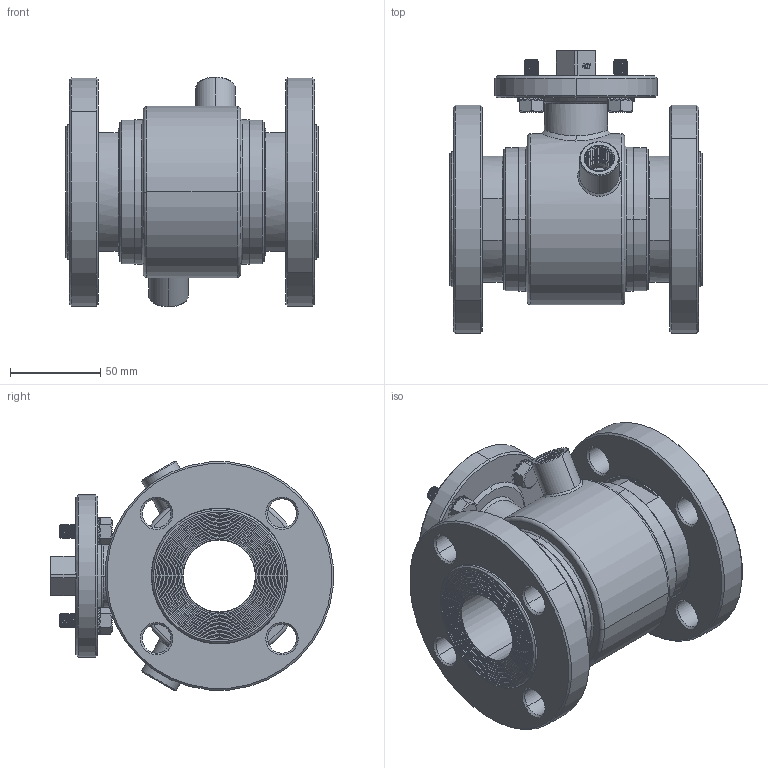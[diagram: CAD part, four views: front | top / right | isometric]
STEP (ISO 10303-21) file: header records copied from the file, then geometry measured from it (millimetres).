
FILE_DESCRIPTION((''),'2;1');
FILE_NAME('133055C6341F_SW0001','2026-07-28T10:50:59',('tecnico2'),('CDM Tecnoconsulting'),'CREO PARAMETRIC BY PTC INC, 2024063','CREO PARAMETRIC BY PTC INC, 2024063','');
FILE_SCHEMA(('CONFIG_CONTROL_DESIGN','SHAPE_APPEARANCE_LAYERS_GROUPS'));
Products named in the file (1): 133055C6341F_SW0001
Bounding box: 140 x 156.76 x 127.41 mm (x, y, z)
Volume: 861638.2 mm3; surface area: 190969.6 mm2
Topology: 1 solids, 1 shells, 1638 faces, 4424 edges, 2859 vertices
Faces by surface type: plane 593, cylinder 488, cone 218, bspline 146, extrusion 111, torus 70, sphere 12
Entity records: 127872 total; most frequent: CARTESIAN_POINT 75533, ORIENTED_EDGE 8832, DIRECTION 6778, PRESENTATION_STYLE_ASSIGNMENT 4477, STYLED_ITEM 4417, CURVE_STYLE 4416, EDGE_CURVE 4416, VERTEX_POINT 2859
